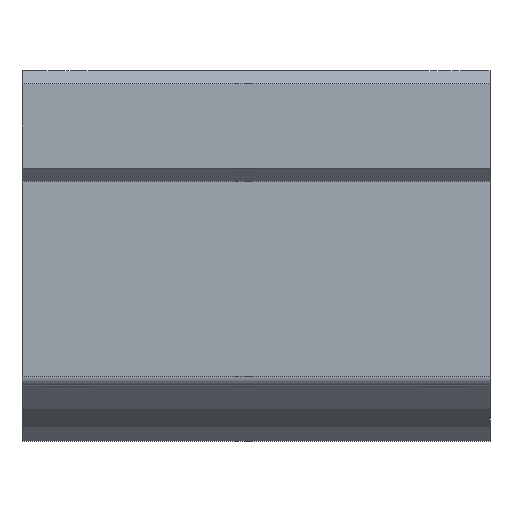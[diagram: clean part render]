
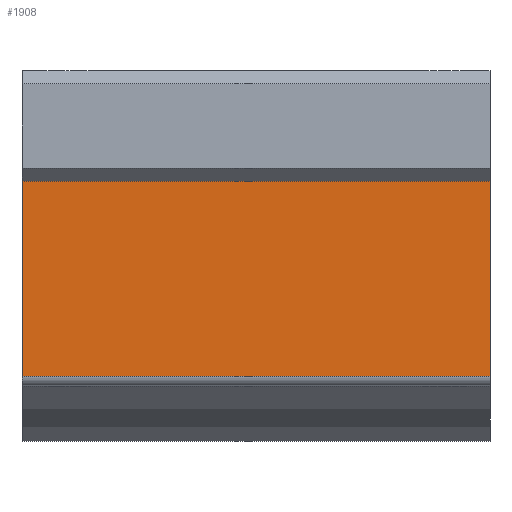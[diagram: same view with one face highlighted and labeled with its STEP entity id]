
A CAD part, front view. The second image highlights one B-rep face of the part: STEP entity #1908.
In plain terms, the highlighted planar face has unit normal (0, -1, 0).
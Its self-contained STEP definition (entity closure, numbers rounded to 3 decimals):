
#1645=CARTESIAN_POINT('',(72.0,-37.,13.));
#1646=VERTEX_POINT('',#1645);
#1653=CARTESIAN_POINT('',(72.0,-37.,-17.));
#1654=VERTEX_POINT('',#1653);
#1655=CARTESIAN_POINT('',(72.0,-37.,-17.));
#1656=DIRECTION('',(0.0,0.0,1.0));
#1657=VECTOR('',#1656,30.);
#1658=LINE('',#1655,#1657);
#1659=EDGE_CURVE('',#1654,#1646,#1658,.T.);
#1723=CARTESIAN_POINT('',(0.0,-37.,-17.));
#1724=VERTEX_POINT('',#1723);
#1725=CARTESIAN_POINT('',(72.0,-37.,-17.));
#1726=DIRECTION('',(-1.0,0.0,0.0));
#1727=VECTOR('',#1726,72.0);
#1728=LINE('',#1725,#1727);
#1729=EDGE_CURVE('',#1654,#1724,#1728,.T.);
#1789=CARTESIAN_POINT('',(0.0,-37.,13.));
#1790=VERTEX_POINT('',#1789);
#1791=CARTESIAN_POINT('',(0.0,-37.,13.));
#1792=DIRECTION('',(0.0,0.0,-1.0));
#1793=VECTOR('',#1792,30.);
#1794=LINE('',#1791,#1793);
#1795=EDGE_CURVE('',#1790,#1724,#1794,.T.);
#1892=CARTESIAN_POINT('',(0.0,-37.,-18.5));
#1893=DIRECTION('',(0.0,-1.0,0.0));
#1894=DIRECTION('',(0.0,0.0,-1.0));
#1895=AXIS2_PLACEMENT_3D('',#1892,#1893,#1894);
#1896=PLANE('',#1895);
#1897=ORIENTED_EDGE('',*,*,#1729,.F.);
#1898=ORIENTED_EDGE('',*,*,#1659,.T.);
#1899=CARTESIAN_POINT('',(0.0,-37.,13.));
#1900=DIRECTION('',(1.0,0.0,0.0));
#1901=VECTOR('',#1900,72.0);
#1902=LINE('',#1899,#1901);
#1903=EDGE_CURVE('',#1790,#1646,#1902,.T.);
#1904=ORIENTED_EDGE('',*,*,#1903,.F.);
#1905=ORIENTED_EDGE('',*,*,#1795,.T.);
#1906=EDGE_LOOP('',(#1897,#1898,#1904,#1905));
#1907=FACE_OUTER_BOUND('',#1906,.T.);
#1908=ADVANCED_FACE('',(#1907),#1896,.T.);
